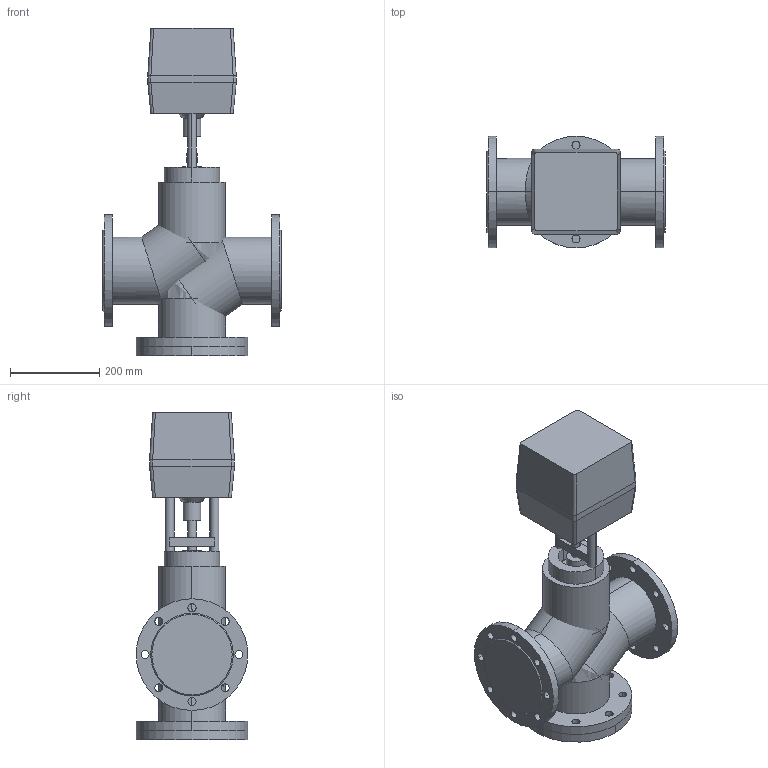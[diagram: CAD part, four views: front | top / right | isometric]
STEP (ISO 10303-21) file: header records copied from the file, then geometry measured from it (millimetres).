
FILE_DESCRIPTION(/* description */ (''),/* implementation_level */ '2;1');
FILE_NAME(/* name */ 'ТРК DN125 PN 1.6 МПа LEA 10000',/* time_stamp */ '2026-07-14T23:04:41+03:00',/* author */ (''),/* organization */ (''),/* preprocessor_version */ 'ST-DEVELOPER v20',/* originating_system */ '',/* authorisation */ '');
FILE_SCHEMA (('AP242_MANAGED_MODEL_BASED_3D_ENGINEERING_MIM_LF { 1 0 10303 442 1 1 4 }'));
Length unit declared in the file: millimetre
Products named in the file (14): TopLevelAssembly; Выдавливание; Модификатор; Модификатор_1; Выдавливание_
1; Выдавливание_
2; Вращение; Выдавливание_
3; Выдавливание_
4; 1600; Переход; Объемная геометрия 
присоединена; Полый Выдавливание; Объемная геометрия 
присоединена_1
Assembly tree (13 placements, depth 2):
  TopLevelAssembly
    Выдавливание
    Модификатор
    Модификатор_1
    Выдавливание_
1
    Выдавливание_
2
    Вращение
    Выдавливание_
3
    Выдавливание_
4
    1600
    Переход
    Объемная геометрия 
присоединена
    Полый Выдавливание
    Объемная геометрия 
присоединена_1
Bounding box: 400 x 250 x 734 mm (x, y, z)
Volume: 24950113.1 mm3; surface area: 1526145.8 mm2
Topology: 23 solids, 23 shells, 182 faces, 408 edges, 266 vertices
Faces by surface type: cylinder 100, plane 64, bspline 14, cone 4
Entity records: 5913 total; most frequent: CARTESIAN_POINT 1173, DIRECTION 1020, ORIENTED_EDGE 800, AXIS2_PLACEMENT_3D 425, EDGE_CURVE 400, VERTEX_POINT 266, EDGE_LOOP 240, CIRCLE 222
